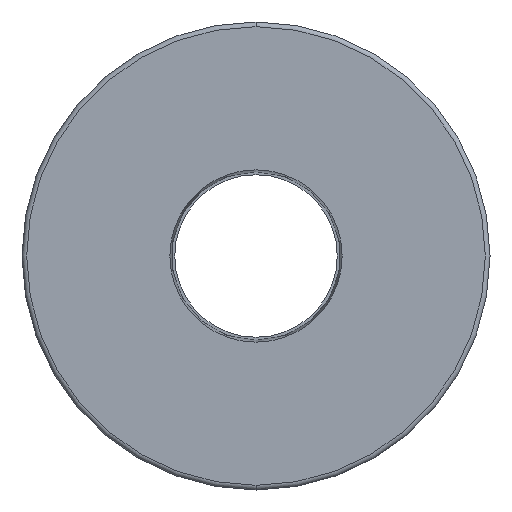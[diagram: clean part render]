
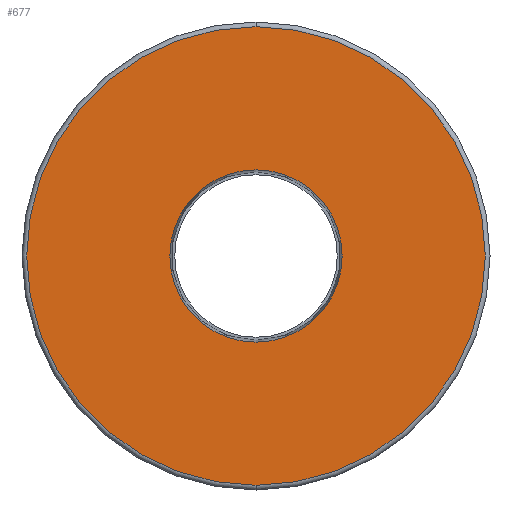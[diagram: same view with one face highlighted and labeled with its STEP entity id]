
A CAD part, front view. The second image highlights one B-rep face of the part: STEP entity #677.
In plain terms, the highlighted planar face has unit normal (0, -1, 0).
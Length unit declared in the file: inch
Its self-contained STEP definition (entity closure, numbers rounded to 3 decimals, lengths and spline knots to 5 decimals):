
#36 = DIRECTION ( 'NONE',  ( 0., 0., 1. ) ) ;
#65 = DIRECTION ( 'NONE',  ( 0., 0., 1. ) ) ;
#133 = DIRECTION ( 'NONE',  ( 0., 1., 0. ) ) ;
#159 = CARTESIAN_POINT ( 'NONE',  ( 0., 0., -2.425 ) ) ;
#201 = VERTEX_POINT ( 'NONE', #792 ) ;
#204 = AXIS2_PLACEMENT_3D ( 'NONE', #726, #311, #795 ) ;
#218 = EDGE_CURVE ( 'NONE', #201, #576, #528, .T. ) ;
#254 = VERTEX_POINT ( 'NONE', #585 ) ;
#279 = CIRCLE ( 'NONE', #204, 0.91114 ) ;
#311 = DIRECTION ( 'NONE',  ( 0., -1., 0. ) ) ;
#343 = CARTESIAN_POINT ( 'NONE',  ( 0., 0., 0. ) ) ;
#374 = AXIS2_PLACEMENT_3D ( 'NONE', #905, #477, #65 ) ;
#384 = ORIENTED_EDGE ( 'NONE', *, *, #218, .T. ) ;
#407 = DIRECTION ( 'NONE',  ( 0., 0., -1. ) ) ;
#417 = FACE_BOUND ( 'NONE', #640, .T. ) ;
#426 = AXIS2_PLACEMENT_3D ( 'NONE', #343, #834, #407 ) ;
#435 = EDGE_LOOP ( 'NONE', ( #384, #874 ) ) ;
#448 = DIRECTION ( 'NONE',  ( 0., -1., 0. ) ) ;
#456 = AXIS2_PLACEMENT_3D ( 'NONE', #543, #133, #610 ) ;
#462 = ORIENTED_EDGE ( 'NONE', *, *, #746, .F. ) ;
#477 = DIRECTION ( 'NONE',  ( 0., -1., 0. ) ) ;
#494 = CIRCLE ( 'NONE', #426, 0.91114 ) ;
#528 = CIRCLE ( 'NONE', #644, 2.425 ) ;
#543 = CARTESIAN_POINT ( 'NONE',  ( 0., 0., 0. ) ) ;
#576 = VERTEX_POINT ( 'NONE', #159 ) ;
#585 = CARTESIAN_POINT ( 'NONE',  ( 0., 0., 0.91114 ) ) ;
#603 = FACE_OUTER_BOUND ( 'NONE', #435, .T. ) ;
#608 = CIRCLE ( 'NONE', #374, 2.425 ) ;
#610 = DIRECTION ( 'NONE',  ( 0., 0., 1. ) ) ;
#613 = CARTESIAN_POINT ( 'NONE',  ( 0., 0., -0.91114 ) ) ;
#626 = ORIENTED_EDGE ( 'NONE', *, *, #898, .F. ) ;
#640 = EDGE_LOOP ( 'NONE', ( #626, #462 ) ) ;
#644 = AXIS2_PLACEMENT_3D ( 'NONE', #878, #448, #36 ) ;
#677 = ADVANCED_FACE ( 'NONE', ( #603, #417 ), #902, .F. ) ;
#726 = CARTESIAN_POINT ( 'NONE',  ( 0., 0., 0. ) ) ;
#746 = EDGE_CURVE ( 'NONE', #254, #812, #494, .T. ) ;
#792 = CARTESIAN_POINT ( 'NONE',  ( 0., 0., 2.425 ) ) ;
#795 = DIRECTION ( 'NONE',  ( 0., 0., -1. ) ) ;
#805 = EDGE_CURVE ( 'NONE', #576, #201, #608, .T. ) ;
#812 = VERTEX_POINT ( 'NONE', #613 ) ;
#834 = DIRECTION ( 'NONE',  ( 0., -1., 0. ) ) ;
#874 = ORIENTED_EDGE ( 'NONE', *, *, #805, .T. ) ;
#878 = CARTESIAN_POINT ( 'NONE',  ( 0., 0., 0. ) ) ;
#898 = EDGE_CURVE ( 'NONE', #812, #254, #279, .T. ) ;
#902 = PLANE ( 'NONE',  #456 ) ;
#905 = CARTESIAN_POINT ( 'NONE',  ( 0., 0., 0. ) ) ;
